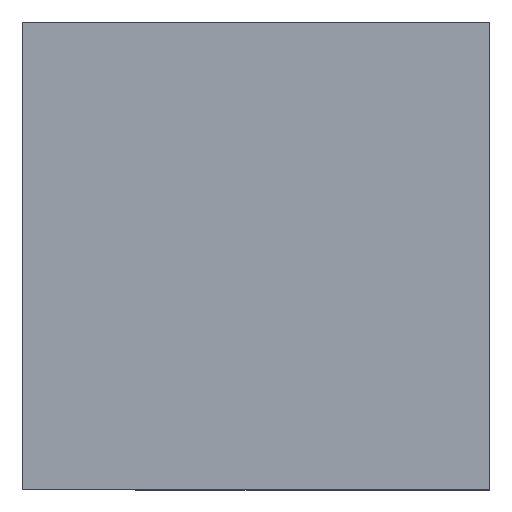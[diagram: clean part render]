
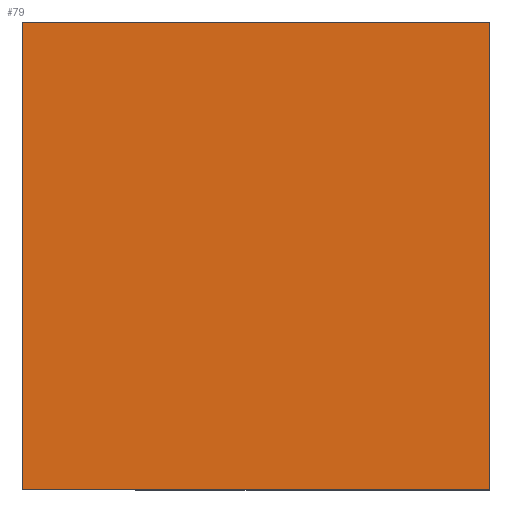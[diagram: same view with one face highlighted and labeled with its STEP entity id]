
A CAD part, top view. The second image highlights one B-rep face of the part: STEP entity #79.
In plain terms, the highlighted planar face has unit normal (0, 0, 1).
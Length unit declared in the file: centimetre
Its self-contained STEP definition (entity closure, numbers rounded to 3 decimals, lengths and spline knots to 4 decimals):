
#15 = VERTEX_POINT ( 'NONE', #1002 ) ;
#44 = DIRECTION ( 'NONE',  ( 0., 0., 1. ) ) ;
#45 = CARTESIAN_POINT ( 'NONE',  ( 0., 1000., 1000. ) ) ;
#60 = EDGE_CURVE ( 'NONE', #15, #744, #293, .T. ) ;
#74 = EDGE_CURVE ( 'NONE', #744, #116, #697, .T. ) ;
#79 = ADVANCED_FACE ( 'NONE', ( #119 ), #624, .T. ) ;
#83 = CARTESIAN_POINT ( 'NONE',  ( 1000., 0., 1000. ) ) ;
#98 = VECTOR ( 'NONE', #469, 100. ) ;
#116 = VERTEX_POINT ( 'NONE', #205 ) ;
#119 = FACE_OUTER_BOUND ( 'NONE', #566, .T. ) ;
#136 = CARTESIAN_POINT ( 'NONE',  ( 0., 0., 1000. ) ) ;
#205 = CARTESIAN_POINT ( 'NONE',  ( 1000., 1000., 1000. ) ) ;
#218 = CARTESIAN_POINT ( 'NONE',  ( 0., 1000., 1000. ) ) ;
#234 = ORIENTED_EDGE ( 'NONE', *, *, #689, .T. ) ;
#293 = LINE ( 'NONE', #941, #98 ) ;
#322 = AXIS2_PLACEMENT_3D ( 'NONE', #136, #44, #693 ) ;
#384 = VECTOR ( 'NONE', #386, 100. ) ;
#386 = DIRECTION ( 'NONE',  ( 0., -1., 0. ) ) ;
#469 = DIRECTION ( 'NONE',  ( 1., 0., 0. ) ) ;
#542 = LINE ( 'NONE', #218, #384 ) ;
#547 = CARTESIAN_POINT ( 'NONE',  ( 1000., 1000., 1000. ) ) ;
#566 = EDGE_LOOP ( 'NONE', ( #234, #1035, #776, #595 ) ) ;
#595 = ORIENTED_EDGE ( 'NONE', *, *, #676, .T. ) ;
#624 = PLANE ( 'NONE',  #322 ) ;
#626 = DIRECTION ( 'NONE',  ( -1., 0., 0. ) ) ;
#676 = EDGE_CURVE ( 'NONE', #116, #942, #779, .T. ) ;
#689 = EDGE_CURVE ( 'NONE', #942, #15, #542, .T. ) ;
#693 = DIRECTION ( 'NONE',  ( 1., 0., 0. ) ) ;
#697 = LINE ( 'NONE', #547, #780 ) ;
#744 = VERTEX_POINT ( 'NONE', #83 ) ;
#776 = ORIENTED_EDGE ( 'NONE', *, *, #74, .T. ) ;
#779 = LINE ( 'NONE', #45, #870 ) ;
#780 = VECTOR ( 'NONE', #864, 100. ) ;
#864 = DIRECTION ( 'NONE',  ( 0., 1., 0. ) ) ;
#870 = VECTOR ( 'NONE', #626, 100. ) ;
#941 = CARTESIAN_POINT ( 'NONE',  ( 0., 0., 1000. ) ) ;
#942 = VERTEX_POINT ( 'NONE', #957 ) ;
#957 = CARTESIAN_POINT ( 'NONE',  ( 0., 1000., 1000. ) ) ;
#1002 = CARTESIAN_POINT ( 'NONE',  ( 0., 0., 1000. ) ) ;
#1035 = ORIENTED_EDGE ( 'NONE', *, *, #60, .T. ) ;
